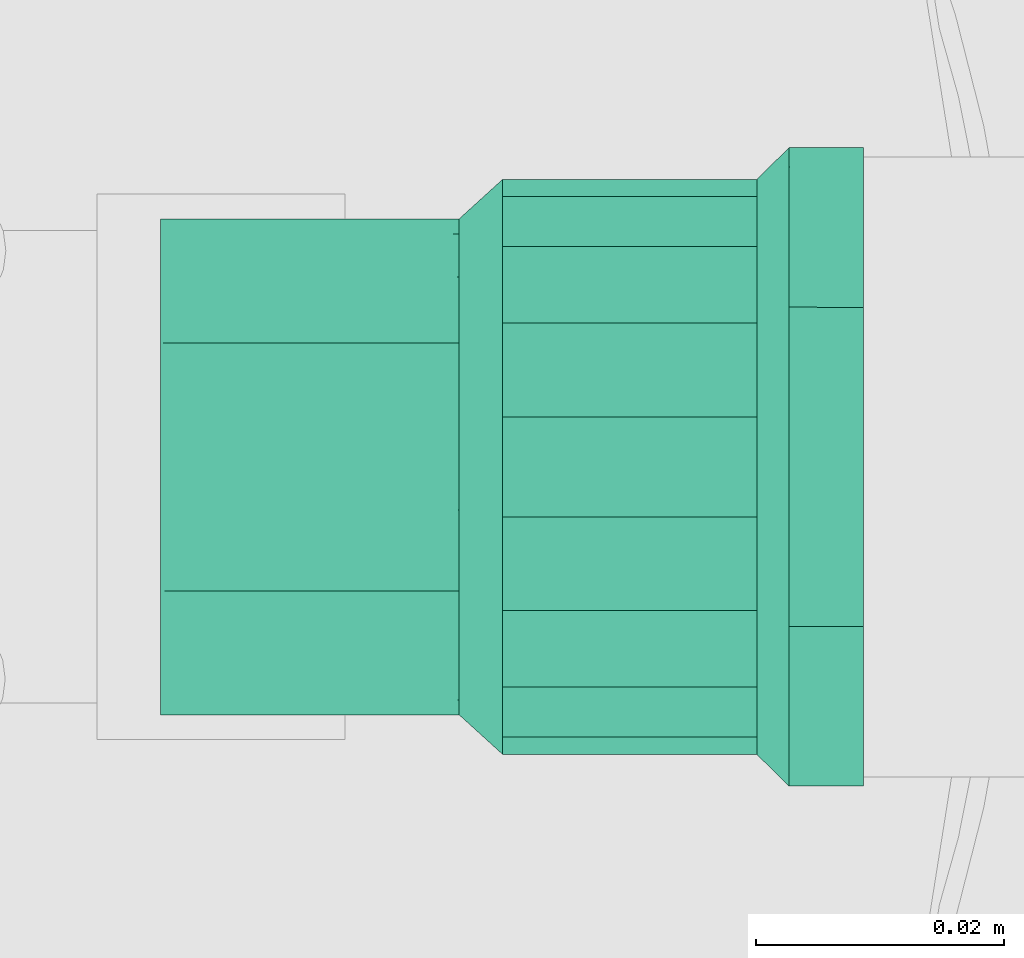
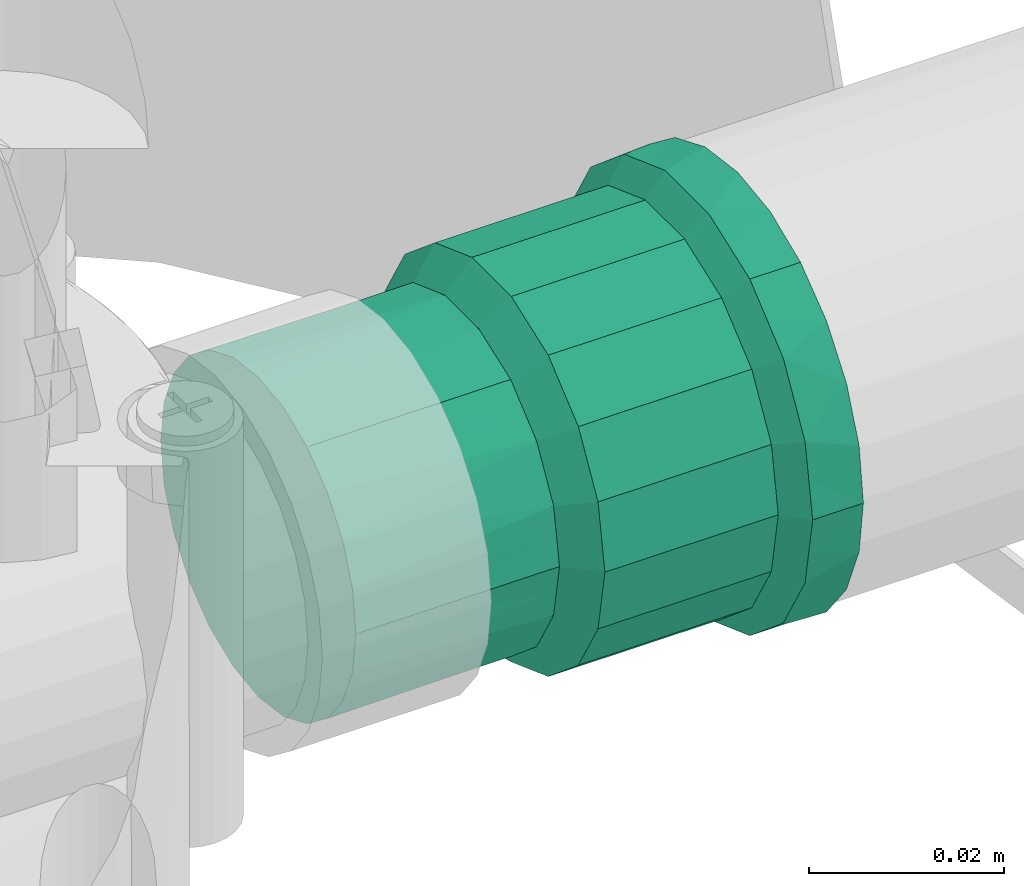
# One storey, part 142 of 166: 1 flow fitting.
"""IFC2X3 building model written with IfcOpenShell, lengths in metres."""

from ifc_helpers import new_model, entity, si_unit, converted_unit, direction, frame, origin, place, context, subcontext, project, spatial, faceted_brep, source, transform, mapped, material, type_object, type_shapes, element, save


model = new_model("IFC2X3")

# Units and contexts
model_context = context("Model", 3, precision=1e-05, world=origin(), true_north=direction((6.123233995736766e-17, 1.0)))
body_context = subcontext(model_context, "Body", "Model", "MODEL_VIEW")
ifc_project = project(units=[si_unit("LENGTHUNIT", "METRE"), converted_unit("PLANEANGLEUNIT", "DEGREE", entity("IfcPlaneAngleMeasure", 0.017453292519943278), si_unit("PLANEANGLEUNIT", "RADIAN"), dimensions=[0, 0, 0, 0, 0, 0, 0]), si_unit("AREAUNIT", "SQUARE_METRE")], contexts=[model_context])

# Site, building, storey
site_placement = place(None, origin())
site = spatial("IfcSite", under=ifc_project, at=site_placement, Name="Default", CompositionType="ELEMENT")
building_placement = place(site_placement, origin())
building = spatial("IfcBuilding", under=site, at=building_placement, Name="CASA DE ACOLHIDA PARA IDOSOS", CompositionType="ELEMENT")
storey_placement = place(building_placement, frame((0.0, 0.0, -1.7499999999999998)))
storey = spatial("IfcBuildingStorey", under=building, at=storey_placement, Name="IMPLANTAÇÃO DRENAGEM", CompositionType="ELEMENT", Elevation=-1.7499999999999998)

# Flow fitting
ifc_material = material(Name="PVC Marrom")
pipe_fitting_type = type_object("IfcPipeFittingType", Name="AF_Soldavel_Adaptador Curto com Bolsa e Rosca:Standard", PredefinedType="NOTDEFINED", material=ifc_material)
shared_shape = source(origin(), body_context, "Body", "Brep", [
    faceted_brep([(0.0, -0.012875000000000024, -0.02230015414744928), (0.0, -0.018207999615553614, -0.018207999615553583), (0.0, -0.0099999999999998, -0.017320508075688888), (0.0, -0.0051763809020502, -0.019318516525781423), (0.0, -0.006664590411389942, -0.0248725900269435), (0.0, -0.014142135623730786, -0.014142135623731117), (0.0, -0.022300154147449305, -0.01287499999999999), (0.0, -0.01732050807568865, -0.01000000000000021), (0.0, -0.0193185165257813, -0.005176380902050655), (0.0, -0.02487259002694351, -0.006664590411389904), (0.0, -0.02, 0.0), (0.0, -0.025750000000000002, 0.0), (0.0, -0.019318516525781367, 0.00517638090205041), (0.0, -0.024872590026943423, 0.006664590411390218), (0.0, -0.01732050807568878, 0.00999999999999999), (0.0, -0.02230015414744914, 0.012875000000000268), (0.0, -0.014142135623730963, 0.014142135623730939), (0.0, -0.018207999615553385, 0.018207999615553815), (0.0, -0.010000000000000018, 0.017320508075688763), (0.0, -0.012874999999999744, 0.022300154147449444), (0.0, -0.00517638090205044, 0.01931851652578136), (0.0, -0.006664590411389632, 0.024872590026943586), (0.0, 0.0, 0.02), (0.0, 0.0, 0.025750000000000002), (0.0, 0.005176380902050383, 0.019318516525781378), (0.0, 0.0066645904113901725, 0.024872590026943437), (0.0, 0.009999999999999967, 0.017320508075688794), (0.0, 0.012875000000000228, 0.022300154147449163), (0.0, 0.01414213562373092, 0.014142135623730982), (0.0, 0.01820799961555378, 0.01820799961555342), (0.0, 0.01732050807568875, 0.010000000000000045), (0.0, 0.02230015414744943, 0.012874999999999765), (0.0, 0.024872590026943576, 0.006664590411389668), (0.0, 0.01931851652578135, 0.005176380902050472), (0.0, 0.025750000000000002, 0.0), (0.0, 0.02, 0.0), (0.0, 0.02487259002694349, -0.006664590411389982), (0.0, 0.01931851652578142, -0.005176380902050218), (0.0, 0.02230015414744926, -0.012875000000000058), (0.0, 0.01732050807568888, -0.009999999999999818), (0.0, 0.01820799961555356, -0.018207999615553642), (0.0, 0.014142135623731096, -0.014142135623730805), (0.0, 0.012874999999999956, -0.022300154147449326), (0.0, 0.010000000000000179, -0.01732050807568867), (0.0, 0.006664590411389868, -0.024872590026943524), (0.0, 0.005176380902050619, -0.01931851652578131), (0.0, 0.0, -0.025750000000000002), (0.0, 0.0, -0.02), (0.005999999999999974, 0.024196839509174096, 0.008807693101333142), (0.005999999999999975, 0.024768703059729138, 0.005564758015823), (0.005999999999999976, 0.024973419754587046, 0.00440384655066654), (0.005999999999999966, 0.016298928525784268, 0.019427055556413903), (0.005999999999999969, 0.019724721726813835, 0.016552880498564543), (0.005999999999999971, 0.021960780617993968, 0.012680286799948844), (0.00599999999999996, 0.008670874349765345, 0.02383026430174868), (0.005999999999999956, 0.004468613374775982, 0.02535929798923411), (0.0059999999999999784, 0.025750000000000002, 0.0), (0.0059999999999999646, 0.01287313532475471, 0.02230123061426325), (0.00599999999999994, -0.012878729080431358, 0.022298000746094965), (0.005999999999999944, -0.008676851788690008, 0.023828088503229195), (0.005999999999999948, -0.004474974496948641, 0.02535817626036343), (0.005999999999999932, -0.019728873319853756, 0.016547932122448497), (0.005999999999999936, -0.016303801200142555, 0.019422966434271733), (0.0059999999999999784, -0.025750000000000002, 0.0), (0.005999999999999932, -0.024199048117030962, 0.008801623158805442), (0.005999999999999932, -0.021963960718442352, 0.012674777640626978), (0.0059999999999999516, -3.180561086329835e-06, 0.02535873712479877), (0.006000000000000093, -0.024199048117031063, -0.00880162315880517), (0.006000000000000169, -0.01630380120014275, -0.019422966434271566), (0.006000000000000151, -0.019728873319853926, -0.016547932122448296), (0.006000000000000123, -0.021963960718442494, -0.012674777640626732), (0.006000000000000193, -0.008676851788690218, -0.023828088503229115), (0.006000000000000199, -0.004474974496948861, -0.025358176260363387), (0.006000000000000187, -0.012878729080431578, -0.02229800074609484), (0.006000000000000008, 0.02497341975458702, -0.004403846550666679), (0.0060000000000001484, 0.012873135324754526, -0.022301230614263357), (0.006000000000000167, 0.008670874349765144, -0.023830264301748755), (0.006000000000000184, 0.004468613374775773, -0.02535929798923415), (0.006000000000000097, 0.01972472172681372, -0.016552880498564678), (0.006000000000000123, 0.016298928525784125, -0.019427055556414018), (0.006000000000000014, 0.024768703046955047, -0.005564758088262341), (0.006000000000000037, 0.024196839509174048, -0.008807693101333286), (0.006000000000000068, 0.021960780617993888, -0.012680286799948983), (0.006000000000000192, -3.1805610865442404e-06, -0.02535873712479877), (0.02909999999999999, 0.022482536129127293, 0.004068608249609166), (0.02910000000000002, 0.023200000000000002, 0.0), (0.00860000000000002, 0.023200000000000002, 0.0), (0.008600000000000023, 0.022500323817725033, 0.003967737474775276), (0.008600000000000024, 0.021800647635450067, 0.007935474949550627), (0.029099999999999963, 0.021800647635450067, 0.007935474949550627), (0.02909999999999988, 0.014684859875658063, 0.017503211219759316), (0.029099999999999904, 0.017771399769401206, 0.014913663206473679), (0.008600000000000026, 0.017771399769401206, 0.014913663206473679), (0.00860000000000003, 0.014684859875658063, 0.017503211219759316), (0.00860000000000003, 0.011598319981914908, 0.020092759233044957), (0.02909999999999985, 0.011598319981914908, 0.020092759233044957), (0.02909999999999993, 0.019786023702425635, 0.01142456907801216), (0.008600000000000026, 0.019786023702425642, 0.011424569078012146), (0.029099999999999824, 0.004026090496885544, 0.02284798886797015), (0.02909999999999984, 0.007812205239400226, 0.021470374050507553), (0.00860000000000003, 0.007812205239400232, 0.02147037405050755), (0.00860000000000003, 0.004026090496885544, 0.02284798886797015), (0.029099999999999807, -0.004031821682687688, 0.022846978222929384), (0.029099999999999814, -2.8655929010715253e-06, 0.022847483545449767), (0.00860000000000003, -2.8655929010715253e-06, 0.022847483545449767), (0.00860000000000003, -0.004031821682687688, 0.022846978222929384), (0.029099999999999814, -0.007817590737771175, 0.021468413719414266), (0.00860000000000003, -0.007817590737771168, 0.021468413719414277), (0.00860000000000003, -0.011603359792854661, 0.020089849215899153), (0.029099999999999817, -0.011603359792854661, 0.020089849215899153), (0.00860000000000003, -0.01468925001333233, 0.017499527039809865), (0.00860000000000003, -0.017775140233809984, 0.014909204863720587), (0.029099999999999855, -0.017775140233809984, 0.014909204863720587), (0.02909999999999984, -0.014689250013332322, 0.01749952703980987), (0.02909999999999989, -0.019788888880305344, 0.011419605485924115), (0.00860000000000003, -0.019788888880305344, 0.01141960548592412), (0.008600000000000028, -0.021802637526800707, 0.00793000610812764), (0.02909999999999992, -0.021802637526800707, 0.00793000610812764), (0.00860000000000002, -0.023200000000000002, 0.0), (0.02910000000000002, -0.023200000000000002, 0.0), (0.029100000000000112, -0.021802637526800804, -0.007930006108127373), (0.008600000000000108, -0.021802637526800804, -0.007930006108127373), (0.00860000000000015, 0.01468485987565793, -0.017503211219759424), (0.008600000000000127, 0.0177713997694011, -0.014913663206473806), (0.029100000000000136, 0.0177713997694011, -0.014913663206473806), (0.02910000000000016, 0.01468485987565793, -0.017503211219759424), (0.02910000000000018, 0.011598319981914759, -0.020092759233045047), (0.00860000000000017, 0.011598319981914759, -0.020092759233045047), (0.02910000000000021, -0.01160335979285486, -0.020089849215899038), (0.029100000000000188, -0.014689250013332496, -0.017499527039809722), (0.02910000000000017, -0.017775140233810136, -0.014909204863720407), (0.008600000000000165, -0.017775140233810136, -0.014909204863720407), (0.00860000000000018, -0.014689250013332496, -0.017499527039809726), (0.0086000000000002, -0.01160335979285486, -0.020089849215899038), (0.008600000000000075, 0.021800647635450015, -0.007935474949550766), (0.02910000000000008, 0.021800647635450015, -0.007935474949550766), (0.029100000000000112, 0.01978602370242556, -0.011424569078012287), (0.0086000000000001, 0.01978602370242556, -0.011424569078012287), (0.008600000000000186, 0.007812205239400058, -0.021470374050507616), (0.029100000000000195, 0.007812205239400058, -0.021470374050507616), (0.029100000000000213, 0.004026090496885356, -0.022847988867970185), (0.008600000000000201, 0.004026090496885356, -0.022847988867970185), (0.02910000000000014, -0.019788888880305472, -0.01141960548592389), (0.008600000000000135, -0.01978888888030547, -0.01141960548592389), (0.008600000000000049, 0.02250032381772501, -0.00396773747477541), (0.029100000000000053, 0.02248253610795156, -0.004068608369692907), (0.029100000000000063, 0.022258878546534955, -0.0053369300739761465), (0.029100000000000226, -0.0040318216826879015, -0.022846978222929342), (0.029100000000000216, -0.00781759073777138, -0.02146841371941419), (0.008600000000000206, -0.00781759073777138, -0.02146841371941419), (0.008600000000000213, -0.0040318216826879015, -0.022846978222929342), (0.02910000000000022, -2.8655929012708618e-06, -0.022847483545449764), (0.008600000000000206, -2.8655929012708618e-06, -0.022847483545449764), (0.056699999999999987, -0.010000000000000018, -0.017320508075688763), (0.056699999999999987, -0.00517638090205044, -0.01931851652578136), (0.056699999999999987, 0.0, -0.02), (0.056699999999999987, 0.005176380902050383, -0.019318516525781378), (0.056699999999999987, 0.009999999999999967, -0.017320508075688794), (0.056699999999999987, 0.01414213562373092, -0.014142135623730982), (0.056699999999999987, 0.01732050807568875, -0.010000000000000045), (0.056699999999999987, 0.01931851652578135, -0.005176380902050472), (0.056699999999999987, 0.02, 0.0), (0.056699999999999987, 0.01931851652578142, 0.005176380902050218), (0.056699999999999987, 0.01732050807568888, 0.009999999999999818), (0.056699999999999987, 0.014142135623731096, 0.014142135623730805), (0.056699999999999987, 0.010000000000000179, 0.01732050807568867), (0.056699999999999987, 0.005176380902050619, 0.01931851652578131), (0.056699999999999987, 0.0, 0.02), (0.056699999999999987, -0.0051763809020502, 0.019318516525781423), (0.056699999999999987, -0.0099999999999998, 0.017320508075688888), (0.056699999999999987, -0.014142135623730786, 0.014142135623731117), (0.056699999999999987, -0.01732050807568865, 0.01000000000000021), (0.056699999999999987, -0.0193185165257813, 0.005176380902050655), (0.056699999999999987, -0.02, 0.0), (0.056699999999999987, -0.019318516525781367, -0.00517638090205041), (0.056699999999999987, -0.01732050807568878, -0.009999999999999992), (0.056699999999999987, -0.014142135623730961, -0.01414213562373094), (0.03261999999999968, 0.0067346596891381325, 0.018508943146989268), (0.03261999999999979, 0.015320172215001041, 0.012856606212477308), (0.03261999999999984, 0.017056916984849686, 0.0098487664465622), (0.032619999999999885, 0.01879366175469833, 0.006840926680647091), (0.032619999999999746, 0.012659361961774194, 0.015088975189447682), (0.032619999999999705, 0.009998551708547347, 0.01732134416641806), (0.032619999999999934, 0.01939683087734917, 0.003420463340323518), (0.03261999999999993, 0.019188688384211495, 0.004600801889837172), (0.03261999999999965, 0.0034707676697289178, 0.019696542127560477), (0.032619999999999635, -2.470338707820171e-06, 0.019696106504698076), (0.03261999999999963, -0.0034757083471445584, 0.019695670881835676), (0.03261999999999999, 0.02, 0.0), (0.032619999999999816, -0.01879537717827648, 0.006836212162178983), (0.03261999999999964, -0.006739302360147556, 0.018507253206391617), (0.032619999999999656, -0.010002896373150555, 0.017318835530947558), (0.03261999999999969, -0.012663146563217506, 0.0150857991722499), (0.03261999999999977, -0.01705938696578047, 0.009844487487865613), (0.03261999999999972, -0.015323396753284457, 0.012852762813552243), (0.03261999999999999, -0.02, 0.0), (0.03262000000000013, -0.015323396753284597, -0.012852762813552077), (0.0326200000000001, -0.017059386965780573, -0.009844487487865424), (0.03262000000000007, -0.018795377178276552, -0.006836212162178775), (0.03262000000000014, -0.012663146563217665, -0.015085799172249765), (0.032620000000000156, -0.010002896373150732, -0.017318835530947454), (0.03262000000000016, -0.006739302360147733, -0.01850725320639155), (0.03262000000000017, -0.0034757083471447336, -0.019695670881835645), (0.03262000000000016, -2.4703387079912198e-06, -0.019696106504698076), (0.032620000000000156, 0.0034707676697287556, -0.019696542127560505), (0.03262000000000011, 0.012659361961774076, -0.015088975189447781), (0.032620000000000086, 0.015320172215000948, -0.01285660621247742), (0.03262000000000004, 0.018793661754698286, -0.006840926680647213), (0.03262000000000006, 0.01705691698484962, -0.009848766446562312), (0.03262000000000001, 0.01939683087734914, -0.0034204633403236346), (0.03262000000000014, 0.006734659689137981, -0.018508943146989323), (0.03262000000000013, 0.009998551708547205, -0.017321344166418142), (0.00860000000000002, 0.019318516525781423, -0.005176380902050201), (0.02910000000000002, 0.019318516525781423, -0.005176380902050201), (0.02910000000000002, 0.02, 0.0), (0.00860000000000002, 0.02, 0.0), (0.0059999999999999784, 0.02, 0.0), (0.0059999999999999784, 0.019318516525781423, -0.005176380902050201), (0.00860000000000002, 0.017320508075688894, -0.009999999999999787), (0.02910000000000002, 0.017320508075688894, -0.009999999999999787), (0.0059999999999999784, 0.017320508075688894, -0.009999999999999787), (0.02910000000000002, 0.010000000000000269, -0.017320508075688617), (0.02910000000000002, 0.014142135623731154, -0.014142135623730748), (0.00860000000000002, 0.014142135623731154, -0.014142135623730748), (0.0059999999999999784, 0.014142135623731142, -0.01414213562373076), (0.0059999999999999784, 0.010000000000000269, -0.017320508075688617), (0.00860000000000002, 0.010000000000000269, -0.017320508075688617), (0.02910000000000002, 0.005176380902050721, -0.019318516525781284), (0.0059999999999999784, 0.005176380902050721, -0.019318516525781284), (0.00860000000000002, 0.005176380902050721, -0.019318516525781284), (0.02910000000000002, 0.0, -0.02), (0.0059999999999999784, 0.0, -0.02), (0.00860000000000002, 0.0, -0.02), (0.00860000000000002, -0.005176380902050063, -0.01931851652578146), (0.02910000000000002, -0.005176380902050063, -0.01931851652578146), (0.0059999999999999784, -0.005176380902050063, -0.01931851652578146), (0.00860000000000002, -0.009999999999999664, -0.017320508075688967), (0.02910000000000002, -0.009999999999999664, -0.017320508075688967), (0.0059999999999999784, -0.009999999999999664, -0.017320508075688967), (0.02910000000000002, -0.017320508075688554, -0.010000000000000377), (0.02910000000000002, -0.014142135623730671, -0.01414213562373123), (0.00860000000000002, -0.014142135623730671, -0.01414213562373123), (0.0059999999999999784, -0.01414213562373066, -0.014142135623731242), (0.0059999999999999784, -0.017320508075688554, -0.010000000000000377), (0.00860000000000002, -0.017320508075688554, -0.010000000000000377), (0.02910000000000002, -0.019318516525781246, -0.00517638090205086), (0.0059999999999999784, -0.019318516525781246, -0.00517638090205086), (0.00860000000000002, -0.019318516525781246, -0.00517638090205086), (0.00860000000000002, -0.02, 0.0), (0.02910000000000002, -0.02, 0.0), (0.0059999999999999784, -0.02, 0.0), (0.00860000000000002, -0.01931851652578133, 0.005176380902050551), (0.02910000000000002, -0.01931851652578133, 0.005176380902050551), (0.0059999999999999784, -0.01931851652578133, 0.005176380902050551), (0.00860000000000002, -0.017320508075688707, 0.010000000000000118), (0.02910000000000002, -0.017320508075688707, 0.010000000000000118), (0.0059999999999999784, -0.017320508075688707, 0.010000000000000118), (0.02910000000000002, -0.009999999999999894, 0.017320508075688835), (0.02910000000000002, -0.014142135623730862, 0.014142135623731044), (0.00860000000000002, -0.014142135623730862, 0.014142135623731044), (0.0059999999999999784, -0.014142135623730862, 0.014142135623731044), (0.0059999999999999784, -0.009999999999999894, 0.017320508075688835), (0.00860000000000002, -0.009999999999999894, 0.017320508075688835), (0.02910000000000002, -0.005176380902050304, 0.019318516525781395), (0.0059999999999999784, -0.005176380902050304, 0.019318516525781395), (0.00860000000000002, -0.005176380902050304, 0.019318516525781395), (0.02910000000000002, 0.0, 0.02), (0.0059999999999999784, 0.0, 0.02), (0.00860000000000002, 0.0, 0.02), (0.0059999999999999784, 0.005176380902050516, 0.01931851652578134), (0.00860000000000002, 0.005176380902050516, 0.01931851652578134), (0.02910000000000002, 0.005176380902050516, 0.01931851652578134), (0.02910000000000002, 0.017320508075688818, 0.009999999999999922), (0.00860000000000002, 0.017320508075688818, 0.009999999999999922), (0.0059999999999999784, 0.017320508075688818, 0.009999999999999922), (0.0059999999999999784, 0.019318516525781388, 0.005176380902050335), (0.00860000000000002, 0.019318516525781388, 0.005176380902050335), (0.02910000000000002, 0.019318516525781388, 0.005176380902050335), (0.02910000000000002, 0.014142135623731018, 0.014142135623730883), (0.00860000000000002, 0.014142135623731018, 0.014142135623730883), (0.0059999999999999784, 0.014142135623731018, 0.014142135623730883), (0.0059999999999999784, 0.010000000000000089, 0.017320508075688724), (0.00860000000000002, 0.010000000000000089, 0.017320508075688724), (0.02910000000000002, 0.010000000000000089, 0.017320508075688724)], [[[0, 1, 2]], [[0, 2, 3]], [[3, 4, 0]], [[2, 1, 5]], [[6, 5, 1]], [[7, 5, 6]], [[8, 7, 6]], [[8, 6, 9]], [[8, 9, 10]], [[10, 9, 11]], [[12, 10, 11]], [[12, 11, 13]], [[14, 12, 13]], [[14, 13, 15]], [[16, 14, 15]], [[15, 17, 16]], [[17, 18, 16]], [[18, 17, 19]], [[18, 19, 20]], [[21, 20, 19]], [[20, 21, 22]], [[22, 21, 23]], [[23, 24, 22]], [[24, 23, 25]], [[24, 25, 26]], [[27, 26, 25]], [[27, 28, 26]], [[27, 29, 28]], [[30, 28, 29]], [[31, 30, 29]], [[32, 30, 31]], [[33, 30, 32]], [[33, 32, 34]], [[34, 35, 33]], [[36, 35, 34]], [[36, 37, 35]], [[37, 36, 38]], [[39, 37, 38]], [[39, 38, 40]], [[39, 40, 41]], [[40, 42, 41]], [[41, 42, 43]], [[43, 42, 44]], [[44, 45, 43]], [[46, 45, 44]], [[4, 47, 46]], [[46, 47, 45]], [[4, 3, 47]], [[32, 48, 49, 50]], [[51, 52, 29]], [[53, 48, 31, 52]], [[54, 25, 55]], [[48, 32, 31]], [[34, 50, 56]], [[27, 57, 51]], [[29, 27, 51]], [[29, 52, 31]], [[19, 58, 59]], [[21, 19, 59]], [[54, 57, 27]], [[25, 54, 27]], [[55, 25, 23]], [[32, 50, 34]], [[59, 60, 21]], [[61, 62, 17]], [[63, 64, 13]], [[65, 61, 15, 64]], [[11, 63, 13]], [[17, 62, 19]], [[66, 55, 23, 60]], [[21, 60, 23]], [[61, 17, 15]], [[19, 62, 58]], [[13, 64, 15]], [[67, 63, 9]], [[68, 69, 1]], [[70, 67, 6, 69]], [[71, 4, 72]], [[67, 9, 6]], [[63, 11, 9]], [[4, 71, 0]], [[0, 73, 68]], [[1, 69, 6]], [[36, 34, 74]], [[42, 75, 76]], [[71, 73, 0]], [[44, 42, 76]], [[72, 4, 46]], [[1, 0, 68]], [[76, 77, 44]], [[78, 79, 40]], [[36, 74, 80, 81]], [[82, 78, 38, 81]], [[36, 81, 38]], [[40, 79, 42]], [[83, 72, 46, 77]], [[44, 77, 46]], [[78, 40, 38]], [[42, 79, 75]], [[34, 56, 74]], [[84, 85, 86, 87, 88, 89]], [[90, 91, 92, 93, 94, 95]], [[91, 96, 89, 88, 97, 92]], [[98, 99, 95, 94, 100, 101]], [[102, 103, 98, 101, 104, 105]], [[106, 102, 105, 107, 108, 109]], [[110, 111, 112, 113, 109, 108]], [[114, 112, 111, 115, 116, 117]], [[116, 118, 119, 117]], [[120, 119, 118, 121]], [[122, 123, 124, 125, 126, 127]], [[128, 129, 130, 131, 132, 133]], [[134, 135, 136, 124, 123, 137]], [[138, 127, 126, 139, 140, 141]], [[130, 142, 120, 121, 143, 131]], [[144, 86, 85, 145, 146, 135, 134]], [[147, 148, 128, 133, 149, 150]], [[140, 151, 147, 150, 152, 141]], [[153, 154, 155, 156, 157, 158, 159, 160, 161, 162, 163, 164, 165, 166, 167, 168, 169, 170, 171, 172, 173, 174, 175, 176]], [[166, 165, 177]], [[178, 164, 163]], [[179, 178, 163, 180]], [[165, 181, 182]], [[162, 183, 184, 180]], [[177, 185, 166]], [[181, 164, 178]], [[186, 187, 167, 185]], [[164, 181, 165]], [[162, 161, 183]], [[161, 188, 183]], [[162, 180, 163]], [[167, 187, 168]], [[189, 172, 171]], [[168, 190, 169]], [[169, 191, 192]], [[193, 189, 171, 194]], [[173, 172, 195]], [[168, 187, 190]], [[190, 191, 169]], [[170, 194, 171]], [[165, 182, 177]], [[192, 194, 170]], [[170, 169, 192]], [[189, 195, 172]], [[166, 185, 167]], [[174, 173, 195]], [[196, 176, 175]], [[197, 196, 175, 198]], [[153, 199, 200]], [[174, 195, 198]], [[201, 202, 154]], [[199, 176, 196]], [[203, 204, 155, 202]], [[154, 202, 155]], [[176, 199, 153]], [[158, 157, 205]], [[154, 153, 201]], [[153, 200, 201]], [[158, 206, 159]], [[174, 198, 175]], [[207, 160, 159]], [[208, 207, 159, 206]], [[160, 209, 161]], [[209, 188, 161]], [[204, 210, 156]], [[156, 155, 204]], [[157, 210, 211]], [[156, 210, 157]], [[205, 206, 158]], [[160, 207, 209]], [[157, 211, 205]], [[212, 213, 214, 215, 216, 35, 37, 217]], [[218, 219, 213, 212, 217, 37, 39, 220]], [[221, 222, 223, 224, 41, 43, 225, 226]], [[218, 220, 39, 41, 224, 223, 222, 219]], [[227, 221, 226, 225, 43, 45, 228, 229]], [[230, 227, 229, 228, 45, 47, 231, 232]], [[233, 234, 230, 232, 231, 47, 3, 235]], [[236, 237, 234, 233, 235, 3, 2, 238]], [[239, 240, 241, 242, 5, 7, 243, 244]], [[236, 238, 2, 5, 242, 241, 240, 237]], [[245, 239, 244, 243, 7, 8, 246, 247]], [[248, 249, 245, 247, 246, 8, 10, 250]], [[251, 252, 249, 248, 250, 10, 12, 253]], [[254, 255, 252, 251, 253, 12, 14, 256]], [[257, 258, 259, 260, 16, 18, 261, 262]], [[254, 256, 14, 16, 260, 259, 258, 255]], [[263, 257, 262, 261, 18, 20, 264, 265]], [[266, 263, 265, 264, 20, 22, 267, 268]], [[268, 267, 22, 24, 269, 270, 271, 266]], [[272, 273, 274, 30, 33, 275, 276, 277]], [[273, 272, 278, 279, 280, 28, 30, 274]], [[277, 276, 275, 33, 35, 216, 215, 214]], [[271, 270, 269, 24, 26, 281, 282, 283]], [[283, 282, 281, 26, 28, 280, 279, 278]], [[63, 67, 121, 118]], [[68, 73, 133, 132, 131, 69]], [[149, 133, 73, 71, 72, 150]], [[70, 69, 131, 143, 121, 67]], [[76, 75, 127, 138, 141, 77]], [[82, 81, 134, 137, 123, 78]], [[144, 134, 81, 80, 74, 56, 86]], [[141, 152, 150, 72, 83, 77]], [[123, 122, 127, 75, 79, 78]], [[87, 86, 56, 50, 49, 48, 88]], [[97, 88, 48, 53, 52, 92]], [[93, 92, 52, 51, 57, 94]], [[57, 54, 55, 101, 100, 94]], [[66, 60, 105, 104, 101, 55]], [[58, 108, 107, 105, 60, 59]], [[63, 118, 116, 64]], [[61, 65, 64, 116, 115, 111]], [[58, 62, 61, 111, 110, 108]], [[227, 230, 234, 237, 240, 239, 245, 249, 252, 255, 258, 257, 263, 266, 271, 283, 278, 272, 277, 214, 213, 219, 222, 221]], [[180, 184, 183, 188, 85, 84, 89]], [[99, 98, 185, 177, 182, 95]], [[182, 181, 178, 91, 90, 95]], [[178, 179, 180, 89, 96, 91]], [[103, 102, 187, 186, 185, 98]], [[114, 117, 189, 193, 194, 112]], [[106, 109, 191, 190, 187, 102]], [[117, 119, 195, 189]], [[194, 192, 191, 109, 113, 112]], [[119, 120, 198, 195]], [[201, 200, 128, 148, 147, 202]], [[129, 128, 200, 199, 196, 130]], [[196, 197, 198, 120, 142, 130]], [[139, 126, 211, 210, 204, 140]], [[136, 135, 207, 208, 206, 124]], [[209, 207, 135, 146, 145, 85, 188]], [[204, 203, 202, 147, 151, 140]], [[206, 205, 211, 126, 125, 124]]]),
])
type_shapes(pipe_fitting_type, [shared_shape])
flow_fitting_placement = place(storey_placement, frame((-49.02258607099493, -16.745057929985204, -0.2), z_axis=(0.0, 0.0, 1.0), x_axis=(-1.0, 0.0, 0.0)))
element("IfcFlowFitting", 1, at=flow_fitting_placement, inside=storey, type_object=pipe_fitting_type, material=ifc_material, Name="AF_Soldavel_Adaptador Curto com Bolsa e Rosca:Standard", ObjectType="AF_Soldavel_Adaptador Curto com Bolsa e Rosca:Standard", context=body_context, shape_type="MappedRepresentation", body=[
    mapped(shared_shape, transform((0.0, 0.0, 0.0), scale=1.0)),
])

save(model, "model.ifc")
